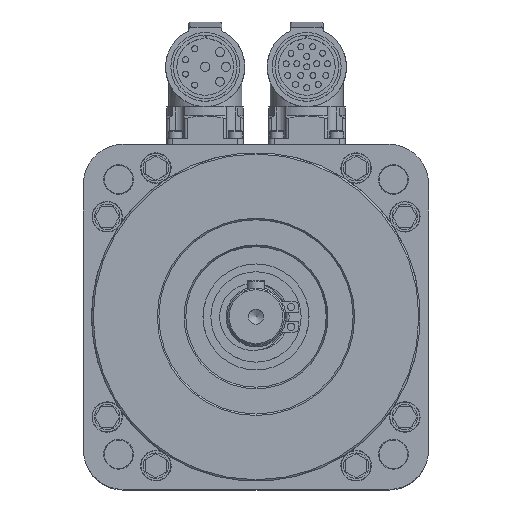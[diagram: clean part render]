
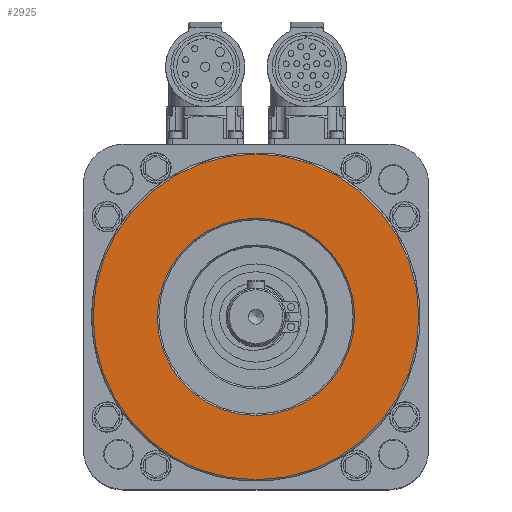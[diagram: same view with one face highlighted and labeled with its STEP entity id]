
A CAD part, top view. The second image highlights one B-rep face of the part: STEP entity #2925.
In plain terms, the highlighted planar face has unit normal (0, 0, 1).
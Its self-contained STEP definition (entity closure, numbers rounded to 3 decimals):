
#2925 = ADVANCED_FACE( '', ( #6442, #6443 ), #6444, .F. );
#6442 = FACE_BOUND( '', #12803, .T. );
#6443 = FACE_OUTER_BOUND( '', #12804, .T. );
#6444 = PLANE( '', #12805 );
#12803 = EDGE_LOOP( '', ( #23701 ) );
#12804 = EDGE_LOOP( '', ( #23702 ) );
#12805 = AXIS2_PLACEMENT_3D( '', #23703, #23704, #23705 );
#23701 = ORIENTED_EDGE( '', *, *, #36084, .T. );
#23702 = ORIENTED_EDGE( '', *, *, #35503, .F. );
#23703 = CARTESIAN_POINT( '', ( 0., 0., 16.5 ) );
#23704 = DIRECTION( '', ( 0., 0., -1. ) );
#23705 = DIRECTION( '', ( -1., 0., 0. ) );
#35503 = EDGE_CURVE( '', #44775, #44775, #44776, .T. );
#36084 = EDGE_CURVE( '', #45710, #45710, #45711, .T. );
#44775 = VERTEX_POINT( '', #59113 );
#44776 = CIRCLE( '', #59114, 54.5 );
#45710 = VERTEX_POINT( '', #60633 );
#45711 = CIRCLE( '', #60634, 33. );
#59113 = CARTESIAN_POINT( '', ( -54.5, 0., 16.5 ) );
#59114 = AXIS2_PLACEMENT_3D( '', #72849, #72850, #72851 );
#60633 = CARTESIAN_POINT( '', ( -33., 0., 16.5 ) );
#60634 = AXIS2_PLACEMENT_3D( '', #74025, #74026, #74027 );
#72849 = CARTESIAN_POINT( '', ( 0., 0., 16.5 ) );
#72850 = DIRECTION( '', ( 0., 0., -1. ) );
#72851 = DIRECTION( '', ( -1., 0., 0. ) );
#74025 = CARTESIAN_POINT( '', ( 0., 0., 16.5 ) );
#74026 = DIRECTION( '', ( 0., 0., -1. ) );
#74027 = DIRECTION( '', ( -1., 0., 0. ) );
